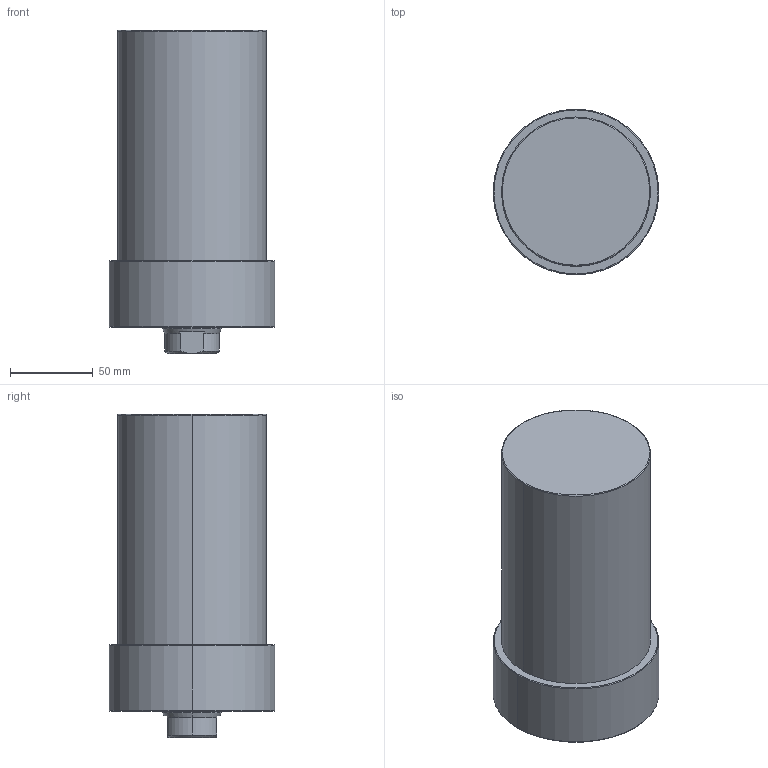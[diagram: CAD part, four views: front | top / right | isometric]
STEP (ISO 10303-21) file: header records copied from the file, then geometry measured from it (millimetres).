
FILE_DESCRIPTION (( 'STEP AP203' ), '1' );
FILE_NAME ('CLLU-090GA-095.STEP', '2020-01-13T03:35:55', ( '' ), ( '' ), 'SwSTEP 2.0', 'SolidWorks 2015', '' );
FILE_SCHEMA (( 'CONFIG_CONTROL_DESIGN' ));
Length unit declared in the file: millimetre
Products named in the file (1): CLLU-090GA-095
Bounding box: 100 x 100 x 195 mm (x, y, z)
Volume: 1192177 mm3; surface area: 74778.3 mm2
Topology: 1 solids, 1 shells, 64 faces, 143 edges, 80 vertices
Faces by surface type: cone 25, cylinder 23, plane 10, torus 6
Entity records: 1809 total; most frequent: DIRECTION 330, CARTESIAN_POINT 322, ORIENTED_EDGE 266, AXIS2_PLACEMENT_3D 140, EDGE_CURVE 133, VERTEX_POINT 80, CIRCLE 75, EDGE_LOOP 73
